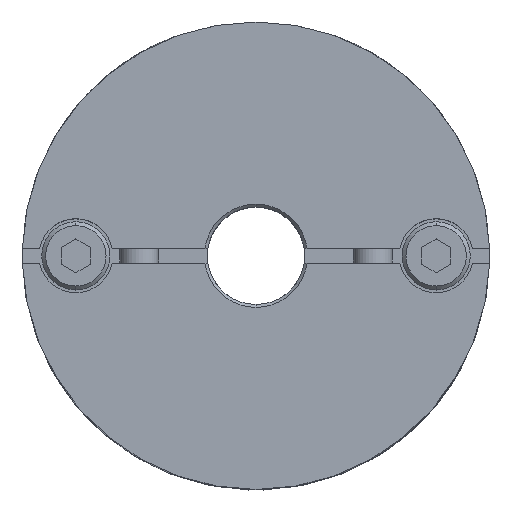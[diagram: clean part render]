
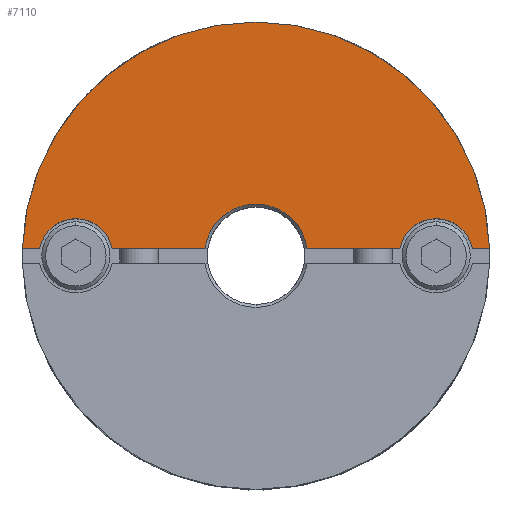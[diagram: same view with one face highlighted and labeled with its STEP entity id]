
A CAD part, top view. The second image highlights one B-rep face of the part: STEP entity #7110.
In plain terms, the highlighted planar face has unit normal (0, 0, 1).
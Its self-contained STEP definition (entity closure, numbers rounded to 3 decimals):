
#553=CARTESIAN_POINT('',(0.,5.3,19.3));
#554=VERTEX_POINT('',#553);
#563=CARTESIAN_POINT('',(-5.247,0.75,19.3));
#564=VERTEX_POINT('',#563);
#565=CARTESIAN_POINT('',(0.,0.,19.3));
#566=DIRECTION('',(0.0,0.0,1.0));
#567=DIRECTION('',(0.0,-1.0,0.0));
#568=AXIS2_PLACEMENT_3D('',#565,#566,#567);
#569=CIRCLE('',#568,5.3);
#570=EDGE_CURVE('',#554,#564,#569,.T.);
#742=CARTESIAN_POINT('',(0.,24.,19.3));
#743=VERTEX_POINT('',#742);
#827=CARTESIAN_POINT('',(-23.988,0.75,19.3));
#828=VERTEX_POINT('',#827);
#835=CARTESIAN_POINT('',(0.,0.,19.3));
#836=DIRECTION('',(0.0,0.0,-1.0));
#837=DIRECTION('',(0.0,1.0,0.0));
#838=AXIS2_PLACEMENT_3D('',#835,#836,#837);
#839=CIRCLE('',#838,24.0);
#840=EDGE_CURVE('',#828,#743,#839,.T.);
#1041=CARTESIAN_POINT('',(-18.5,3.8,19.3));
#1042=VERTEX_POINT('',#1041);
#1051=CARTESIAN_POINT('',(-22.225,0.75,19.3));
#1052=VERTEX_POINT('',#1051);
#1053=CARTESIAN_POINT('',(-18.5,0.,19.3));
#1054=DIRECTION('',(0.0,0.0,-1.0));
#1055=DIRECTION('',(0.0,1.0,0.0));
#1056=AXIS2_PLACEMENT_3D('',#1053,#1054,#1055);
#1057=CIRCLE('',#1056,3.8);
#1058=EDGE_CURVE('',#1052,#1042,#1057,.T.);
#1125=CARTESIAN_POINT('',(18.5,3.8,19.3));
#1126=VERTEX_POINT('',#1125);
#1135=CARTESIAN_POINT('',(14.775,0.75,19.3));
#1136=VERTEX_POINT('',#1135);
#1137=CARTESIAN_POINT('',(18.5,0.,19.3));
#1138=DIRECTION('',(0.0,0.0,-1.0));
#1139=DIRECTION('',(0.0,1.0,0.0));
#1140=AXIS2_PLACEMENT_3D('',#1137,#1138,#1139);
#1141=CIRCLE('',#1140,3.8);
#1142=EDGE_CURVE('',#1136,#1126,#1141,.T.);
#6786=CARTESIAN_POINT('',(22.225,0.75,19.3));
#6787=VERTEX_POINT('',#6786);
#6794=CARTESIAN_POINT('',(18.5,0.,19.3));
#6795=DIRECTION('',(0.0,0.0,-1.0));
#6796=DIRECTION('',(0.0,1.0,0.0));
#6797=AXIS2_PLACEMENT_3D('',#6794,#6795,#6796);
#6798=CIRCLE('',#6797,3.8);
#6799=EDGE_CURVE('',#1126,#6787,#6798,.T.);
#6852=CARTESIAN_POINT('',(-14.775,0.75,19.3));
#6853=VERTEX_POINT('',#6852);
#6860=CARTESIAN_POINT('',(-18.5,0.,19.3));
#6861=DIRECTION('',(0.0,0.0,-1.0));
#6862=DIRECTION('',(0.0,1.0,0.0));
#6863=AXIS2_PLACEMENT_3D('',#6860,#6861,#6862);
#6864=CIRCLE('',#6863,3.8);
#6865=EDGE_CURVE('',#1042,#6853,#6864,.T.);
#6884=CARTESIAN_POINT('',(23.988,0.75,19.3));
#6885=VERTEX_POINT('',#6884);
#6892=CARTESIAN_POINT('',(22.225,0.75,19.3));
#6893=DIRECTION('',(1.0,0.0,0.0));
#6894=VECTOR('',#6893,1.763);
#6895=LINE('',#6892,#6894);
#6896=EDGE_CURVE('',#6787,#6885,#6895,.T.);
#6907=CARTESIAN_POINT('',(5.247,0.75,19.3));
#6908=VERTEX_POINT('',#6907);
#6909=CARTESIAN_POINT('',(5.247,0.75,19.3));
#6910=DIRECTION('',(1.0,0.0,0.0));
#6911=VECTOR('',#6910,9.528);
#6912=LINE('',#6909,#6911);
#6913=EDGE_CURVE('',#6908,#1136,#6912,.T.);
#7069=CARTESIAN_POINT('',(0.,2.182,19.3));
#7070=DIRECTION('',(0.0,0.0,1.0));
#7071=DIRECTION('',(0.0,1.0,0.0));
#7072=AXIS2_PLACEMENT_3D('',#7069,#7070,#7071);
#7073=PLANE('',#7072);
#7074=ORIENTED_EDGE('',*,*,#1142,.T.);
#7075=ORIENTED_EDGE('',*,*,#6799,.T.);
#7076=ORIENTED_EDGE('',*,*,#6896,.T.);
#7077=CARTESIAN_POINT('',(0.,0.,19.3));
#7078=DIRECTION('',(0.0,0.0,-1.0));
#7079=DIRECTION('',(0.0,1.0,0.0));
#7080=AXIS2_PLACEMENT_3D('',#7077,#7078,#7079);
#7081=CIRCLE('',#7080,24.0);
#7082=EDGE_CURVE('',#743,#6885,#7081,.T.);
#7083=ORIENTED_EDGE('',*,*,#7082,.F.);
#7084=ORIENTED_EDGE('',*,*,#840,.F.);
#7085=CARTESIAN_POINT('',(-23.988,0.75,19.3));
#7086=DIRECTION('',(1.0,0.0,0.0));
#7087=VECTOR('',#7086,1.763);
#7088=LINE('',#7085,#7087);
#7089=EDGE_CURVE('',#828,#1052,#7088,.T.);
#7090=ORIENTED_EDGE('',*,*,#7089,.T.);
#7091=ORIENTED_EDGE('',*,*,#1058,.T.);
#7092=ORIENTED_EDGE('',*,*,#6865,.T.);
#7093=CARTESIAN_POINT('',(-14.775,0.75,19.3));
#7094=DIRECTION('',(1.0,0.0,0.0));
#7095=VECTOR('',#7094,9.528);
#7096=LINE('',#7093,#7095);
#7097=EDGE_CURVE('',#6853,#564,#7096,.T.);
#7098=ORIENTED_EDGE('',*,*,#7097,.T.);
#7099=ORIENTED_EDGE('',*,*,#570,.F.);
#7100=CARTESIAN_POINT('',(0.,0.,19.3));
#7101=DIRECTION('',(0.0,0.0,1.0));
#7102=DIRECTION('',(0.0,-1.0,0.0));
#7103=AXIS2_PLACEMENT_3D('',#7100,#7101,#7102);
#7104=CIRCLE('',#7103,5.3);
#7105=EDGE_CURVE('',#6908,#554,#7104,.T.);
#7106=ORIENTED_EDGE('',*,*,#7105,.F.);
#7107=ORIENTED_EDGE('',*,*,#6913,.T.);
#7108=EDGE_LOOP('',(#7074,#7075,#7076,#7083,#7084,#7090,#7091,#7092,#7098,#7099,#7106,#7107));
#7109=FACE_OUTER_BOUND('',#7108,.T.);
#7110=ADVANCED_FACE('',(#7109),#7073,.T.);
